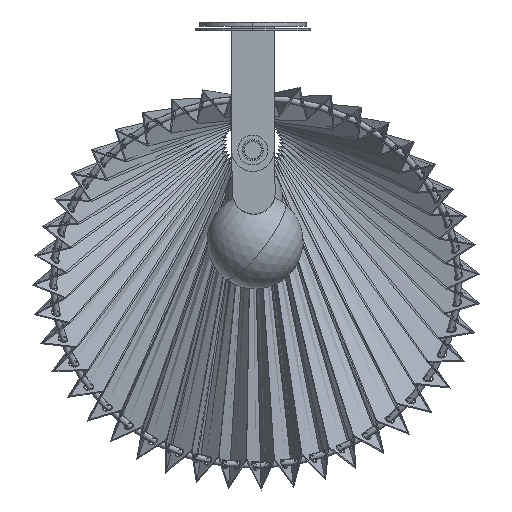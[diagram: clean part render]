
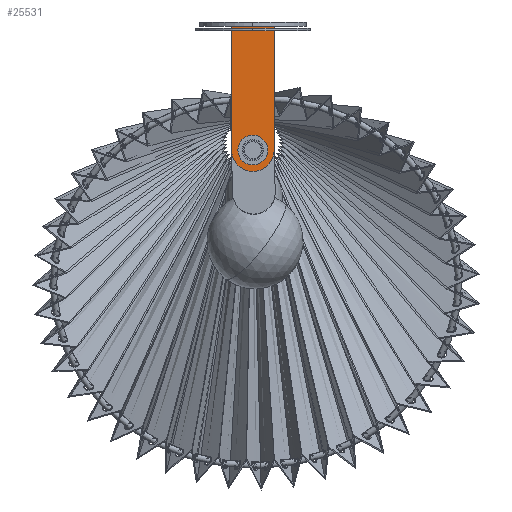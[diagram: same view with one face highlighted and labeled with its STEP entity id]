
A CAD part, front view. The second image highlights one B-rep face of the part: STEP entity #25531.
In plain terms, the highlighted planar face has unit normal (0, -1, 0) as drawn and (0, 0, -1) by its records, which use the part's own axes.
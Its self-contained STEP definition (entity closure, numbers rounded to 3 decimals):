
#1044 = CARTESIAN_POINT ( 'NONE',  ( 0., 60., -1. ) ) ;
#1454 = DIRECTION ( 'NONE',  ( 0., 0., -1. ) ) ;
#1669 = CARTESIAN_POINT ( 'NONE',  ( -10., 0., -1. ) ) ;
#2197 = VERTEX_POINT ( 'NONE', #4737 ) ;
#2214 = CARTESIAN_POINT ( 'NONE',  ( 0., 60., -1. ) ) ;
#2631 = AXIS2_PLACEMENT_3D ( 'NONE', #2214, #22358, #4419 ) ;
#2654 = CARTESIAN_POINT ( 'NONE',  ( 0., 70., -1. ) ) ;
#3143 = CARTESIAN_POINT ( 'NONE',  ( 0., 60., -1. ) ) ;
#4338 = AXIS2_PLACEMENT_3D ( 'NONE', #17141, #1454, #12579 ) ;
#4419 = DIRECTION ( 'NONE',  ( 1., 0., 0. ) ) ;
#4737 = CARTESIAN_POINT ( 'NONE',  ( 10., 0., -1. ) ) ;
#5686 = FACE_BOUND ( 'NONE', #25222, .T. ) ;
#6241 = DIRECTION ( 'NONE',  ( 0., -1., 0. ) ) ;
#6415 = VERTEX_POINT ( 'NONE', #27791 ) ;
#7881 = DIRECTION ( 'NONE',  ( 1., 0., 0. ) ) ;
#7987 = VERTEX_POINT ( 'NONE', #2654 ) ;
#8295 = EDGE_CURVE ( 'NONE', #13170, #13963, #25897, .T. ) ;
#8570 = CARTESIAN_POINT ( 'NONE',  ( 10., 70., -1. ) ) ;
#8792 = CARTESIAN_POINT ( 'NONE',  ( -5.1, 60., -1. ) ) ;
#9831 = DIRECTION ( 'NONE',  ( 0., 0., 1. ) ) ;
#10129 = ORIENTED_EDGE ( 'NONE', *, *, #10450, .T. ) ;
#10450 = EDGE_CURVE ( 'NONE', #11741, #6415, #23374, .T. ) ;
#11152 = AXIS2_PLACEMENT_3D ( 'NONE', #3143, #9831, #12253 ) ;
#11548 = EDGE_CURVE ( 'NONE', #7987, #12922, #23746, .T. ) ;
#11741 = VERTEX_POINT ( 'NONE', #8792 ) ;
#12253 = DIRECTION ( 'NONE',  ( 1., 0., 0. ) ) ;
#12579 = DIRECTION ( 'NONE',  ( 1., 0., 0. ) ) ;
#12593 = CIRCLE ( 'NONE', #11152, 5.1 ) ;
#12922 = VERTEX_POINT ( 'NONE', #17145 ) ;
#13170 = VERTEX_POINT ( 'NONE', #21146 ) ;
#13963 = VERTEX_POINT ( 'NONE', #28025 ) ;
#14375 = PLANE ( 'NONE',  #27007 ) ;
#14860 = VECTOR ( 'NONE', #6241, 1000. ) ;
#15614 = EDGE_CURVE ( 'NONE', #12922, #2197, #26378, .T. ) ;
#16046 = ORIENTED_EDGE ( 'NONE', *, *, #11548, .T. ) ;
#16142 = AXIS2_PLACEMENT_3D ( 'NONE', #1044, #16502, #23236 ) ;
#16296 = EDGE_LOOP ( 'NONE', ( #18428, #24299, #16046, #24135, #25733 ) ) ;
#16398 = CARTESIAN_POINT ( 'NONE',  ( -10., 70., -1. ) ) ;
#16502 = DIRECTION ( 'NONE',  ( 0., 0., -1. ) ) ;
#16518 = ORIENTED_EDGE ( 'NONE', *, *, #25546, .T. ) ;
#17141 = CARTESIAN_POINT ( 'NONE',  ( 0., 60., -1. ) ) ;
#17145 = CARTESIAN_POINT ( 'NONE',  ( 10., 60., -1. ) ) ;
#18428 = ORIENTED_EDGE ( 'NONE', *, *, #8295, .F. ) ;
#20574 = CARTESIAN_POINT ( 'NONE',  ( -10., 70., -1. ) ) ;
#21146 = CARTESIAN_POINT ( 'NONE',  ( -10., 60., -1. ) ) ;
#21632 = DIRECTION ( 'NONE',  ( -1., 0., 0. ) ) ;
#22217 = EDGE_CURVE ( 'NONE', #2197, #13963, #28754, .T. ) ;
#22358 = DIRECTION ( 'NONE',  ( 0., 0., 1. ) ) ;
#22725 = VECTOR ( 'NONE', #22909, 1000. ) ;
#22782 = VECTOR ( 'NONE', #21632, 1000. ) ;
#22909 = DIRECTION ( 'NONE',  ( 0., -1., 0. ) ) ;
#23236 = DIRECTION ( 'NONE',  ( 1., 0., 0. ) ) ;
#23336 = DIRECTION ( 'NONE',  ( 0., 0., 1. ) ) ;
#23374 = CIRCLE ( 'NONE', #2631, 5.1 ) ;
#23489 = EDGE_CURVE ( 'NONE', #13170, #7987, #25929, .T. ) ;
#23746 = CIRCLE ( 'NONE', #4338, 10. ) ;
#24135 = ORIENTED_EDGE ( 'NONE', *, *, #15614, .T. ) ;
#24299 = ORIENTED_EDGE ( 'NONE', *, *, #23489, .T. ) ;
#25222 = EDGE_LOOP ( 'NONE', ( #16518, #10129 ) ) ;
#25531 = ADVANCED_FACE ( 'NONE', ( #5686, #28291 ), #14375, .F. ) ;
#25546 = EDGE_CURVE ( 'NONE', #6415, #11741, #12593, .T. ) ;
#25733 = ORIENTED_EDGE ( 'NONE', *, *, #22217, .T. ) ;
#25897 = LINE ( 'NONE', #20574, #22725 ) ;
#25929 = CIRCLE ( 'NONE', #16142, 10. ) ;
#26378 = LINE ( 'NONE', #8570, #14860 ) ;
#27007 = AXIS2_PLACEMENT_3D ( 'NONE', #16398, #23336, #7881 ) ;
#27791 = CARTESIAN_POINT ( 'NONE',  ( 5.1, 60., -1. ) ) ;
#28025 = CARTESIAN_POINT ( 'NONE',  ( -10., 0., -1. ) ) ;
#28291 = FACE_OUTER_BOUND ( 'NONE', #16296, .T. ) ;
#28754 = LINE ( 'NONE', #1669, #22782 ) ;
